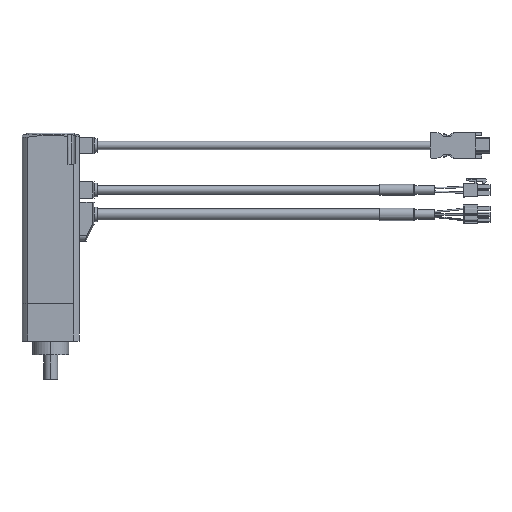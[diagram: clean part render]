
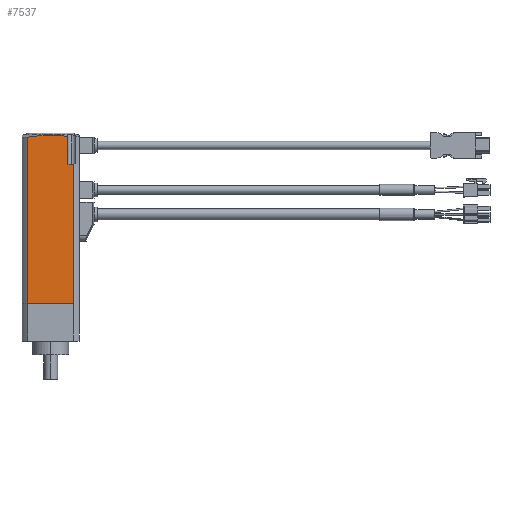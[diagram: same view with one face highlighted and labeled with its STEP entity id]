
A CAD part, left-side view. The second image highlights one B-rep face of the part: STEP entity #7537.
In plain terms, the highlighted planar face has unit normal (-1, 0, 0).
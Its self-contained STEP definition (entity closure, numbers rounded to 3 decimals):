
#75 = DIRECTION ( 'NONE',  ( 0., 1., 0. ) ) ;
#254 = VERTEX_POINT ( 'NONE', #22242 ) ;
#579 = CARTESIAN_POINT ( 'NONE',  ( -21., 0., 78.2 ) ) ;
#774 = ORIENTED_EDGE ( 'NONE', *, *, #6672, .T. ) ;
#1083 = ORIENTED_EDGE ( 'NONE', *, *, #17903, .T. ) ;
#2489 = DIRECTION ( 'NONE',  ( 1., 0., 0. ) ) ;
#2728 = VERTEX_POINT ( 'NONE', #14021 ) ;
#2980 = EDGE_CURVE ( 'NONE', #6152, #2728, #9537, .T. ) ;
#4749 = DIRECTION ( 'NONE',  ( 0., 0., 1. ) ) ;
#4842 = CARTESIAN_POINT ( 'NONE',  ( -21., 21., 51.5 ) ) ;
#6152 = VERTEX_POINT ( 'NONE', #12563 ) ;
#6672 = EDGE_CURVE ( 'NONE', #18542, #254, #18032, .T. ) ;
#7130 = CARTESIAN_POINT ( 'NONE',  ( -21., -12.6, 78.2 ) ) ;
#7221 = PLANE ( 'NONE',  #14229 ) ;
#7361 = CIRCLE ( 'NONE', #19077, 97.77 ) ;
#7537 = ADVANCED_FACE ( 'NONE', ( #12420 ), #7221, .F. ) ;
#8988 = EDGE_CURVE ( 'NONE', #18126, #254, #14443, .T. ) ;
#9151 = VECTOR ( 'NONE', #21458, 1000. ) ;
#9297 = ORIENTED_EDGE ( 'NONE', *, *, #11363, .F. ) ;
#9537 = LINE ( 'NONE', #7130, #15654 ) ;
#9672 = DIRECTION ( 'NONE',  ( 0., 1., 0. ) ) ;
#10178 = VECTOR ( 'NONE', #13271, 1000. ) ;
#11077 = EDGE_CURVE ( 'NONE', #18542, #2728, #7361, .T. ) ;
#11363 = EDGE_CURVE ( 'NONE', #6152, #21829, #17272, .T. ) ;
#11382 = DIRECTION ( 'NONE',  ( 0., 1., 0. ) ) ;
#11401 = ORIENTED_EDGE ( 'NONE', *, *, #11077, .F. ) ;
#12040 = CARTESIAN_POINT ( 'NONE',  ( -21., 21., -23.5 ) ) ;
#12420 = FACE_OUTER_BOUND ( 'NONE', #16627, .T. ) ;
#12563 = CARTESIAN_POINT ( 'NONE',  ( -21., -12.6, 78.2 ) ) ;
#13271 = DIRECTION ( 'NONE',  ( 0., 0., -1. ) ) ;
#13760 = DIRECTION ( 'NONE',  ( 1., 0., 0. ) ) ;
#13992 = CARTESIAN_POINT ( 'NONE',  ( -21., 16.971, 98.009 ) ) ;
#14021 = CARTESIAN_POINT ( 'NONE',  ( -21., -12.6, 98.678 ) ) ;
#14229 = AXIS2_PLACEMENT_3D ( 'NONE', #4842, #2489, #75 ) ;
#14443 = LINE ( 'NONE', #12040, #21801 ) ;
#15188 = ORIENTED_EDGE ( 'NONE', *, *, #2980, .T. ) ;
#15190 = DIRECTION ( 'NONE',  ( 0., 0., 1. ) ) ;
#15643 = CARTESIAN_POINT ( 'NONE',  ( -21., 16.971, 101. ) ) ;
#15654 = VECTOR ( 'NONE', #4749, 1000. ) ;
#15865 = CARTESIAN_POINT ( 'NONE',  ( -21., -16.971, 78.2 ) ) ;
#16171 = CARTESIAN_POINT ( 'NONE',  ( -21., 0., 1.723 ) ) ;
#16627 = EDGE_LOOP ( 'NONE', ( #774, #22003, #1083, #9297, #15188, #11401 ) ) ;
#17272 = LINE ( 'NONE', #579, #9151 ) ;
#17566 = CARTESIAN_POINT ( 'NONE',  ( -21., -16.971, 101. ) ) ;
#17903 = EDGE_CURVE ( 'NONE', #18126, #21829, #19955, .T. ) ;
#18032 = LINE ( 'NONE', #15643, #10178 ) ;
#18126 = VERTEX_POINT ( 'NONE', #19664 ) ;
#18542 = VERTEX_POINT ( 'NONE', #13992 ) ;
#19077 = AXIS2_PLACEMENT_3D ( 'NONE', #16171, #13760, #11382 ) ;
#19664 = CARTESIAN_POINT ( 'NONE',  ( -21., -16.971, -23.5 ) ) ;
#19812 = VECTOR ( 'NONE', #15190, 1000. ) ;
#19955 = LINE ( 'NONE', #17566, #19812 ) ;
#21458 = DIRECTION ( 'NONE',  ( 0., -1., 0. ) ) ;
#21801 = VECTOR ( 'NONE', #9672, 1000. ) ;
#21829 = VERTEX_POINT ( 'NONE', #15865 ) ;
#22003 = ORIENTED_EDGE ( 'NONE', *, *, #8988, .F. ) ;
#22242 = CARTESIAN_POINT ( 'NONE',  ( -21., 16.971, -23.5 ) ) ;
